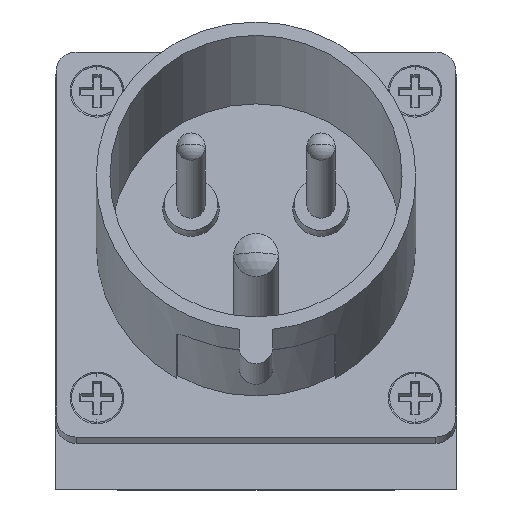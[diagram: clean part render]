
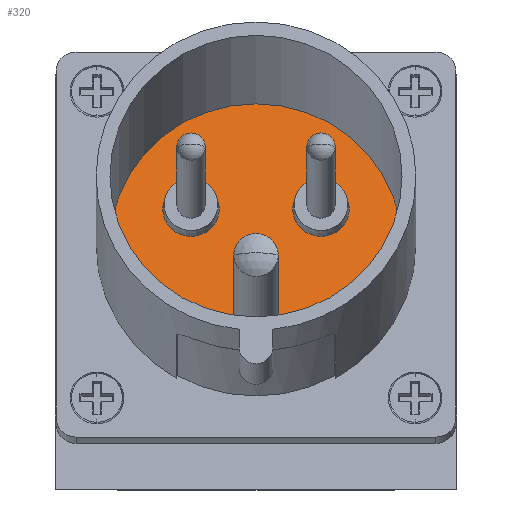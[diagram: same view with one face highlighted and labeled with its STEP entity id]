
A CAD part, top view. The second image highlights one B-rep face of the part: STEP entity #320.
In plain terms, the highlighted planar face has unit normal (0, 0.266, 0.964) as drawn and (0, 0, 1) by its records, which use the part's own axes.
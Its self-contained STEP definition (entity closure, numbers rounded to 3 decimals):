
#16 = EDGE_CURVE ( 'NONE', #2006, #2005, #5152, .T. ) ;
#320 = ADVANCED_FACE ( 'NONE', ( #1564, #1612, #1616, #1558 ), #16106, .F. ) ;
#612 = AXIS2_PLACEMENT_3D ( 'NONE', #6788, #6807, #6808 ) ;
#1442 = EDGE_LOOP ( 'NONE', ( #2650, #2651 ) ) ;
#1449 = EDGE_LOOP ( 'NONE', ( #2649, #2657 ) ) ;
#1450 = EDGE_LOOP ( 'NONE', ( #2654, #2656 ) ) ;
#1451 = EDGE_LOOP ( 'NONE', ( #2653, #2652 ) ) ;
#1558 = FACE_BOUND ( 'NONE', #1449, .T. ) ;
#1562 = AXIS2_PLACEMENT_3D ( 'NONE', #16107, #16108, #16109 ) ;
#1564 = FACE_BOUND ( 'NONE', #1442, .T. ) ;
#1612 = FACE_OUTER_BOUND ( 'NONE', #1451, .T. ) ;
#1616 = FACE_BOUND ( 'NONE', #1450, .T. ) ;
#1982 = VERTEX_POINT ( 'NONE', #8420 ) ;
#1983 = VERTEX_POINT ( 'NONE', #8421 ) ;
#1986 = VERTEX_POINT ( 'NONE', #8424 ) ;
#1987 = VERTEX_POINT ( 'NONE', #8425 ) ;
#2001 = VERTEX_POINT ( 'NONE', #8439 ) ;
#2002 = VERTEX_POINT ( 'NONE', #8440 ) ;
#2005 = VERTEX_POINT ( 'NONE', #8443 ) ;
#2006 = VERTEX_POINT ( 'NONE', #8444 ) ;
#2649 = ORIENTED_EDGE ( 'NONE', *, *, #17697, .F. ) ;
#2650 = ORIENTED_EDGE ( 'NONE', *, *, #17204, .T. ) ;
#2651 = ORIENTED_EDGE ( 'NONE', *, *, #17657, .T. ) ;
#2652 = ORIENTED_EDGE ( 'NONE', *, *, #17713, .T. ) ;
#2653 = ORIENTED_EDGE ( 'NONE', *, *, #16, .T. ) ;
#2654 = ORIENTED_EDGE ( 'NONE', *, *, #17701, .F. ) ;
#2656 = ORIENTED_EDGE ( 'NONE', *, *, #17233, .F. ) ;
#2657 = ORIENTED_EDGE ( 'NONE', *, *, #17202, .F. ) ;
#5152 = CIRCLE ( 'NONE', #612, 25.85 ) ;
#5459 = CIRCLE ( 'NONE', #14406, 5. ) ;
#5460 = CIRCLE ( 'NONE', #14410, 5. ) ;
#5475 = CIRCLE ( 'NONE', #14440, 3.95 ) ;
#5531 = CIRCLE ( 'NONE', #14572, 5. ) ;
#5543 = CIRCLE ( 'NONE', #14611, 5. ) ;
#5544 = CIRCLE ( 'NONE', #14616, 3.95 ) ;
#5549 = CIRCLE ( 'NONE', #14630, 25.85 ) ;
#6788 = CARTESIAN_POINT ( 'NONE',  ( 0., 0., 4.2 ) ) ;
#6807 = DIRECTION ( 'NONE',  ( 0., 0., 1. ) ) ;
#6808 = DIRECTION ( 'NONE',  ( 1., 0., 0. ) ) ;
#8420 = CARTESIAN_POINT ( 'NONE',  ( 16.5, 6.519, 4.2 ) ) ;
#8421 = CARTESIAN_POINT ( 'NONE',  ( 6.5, 6.519, 4.2 ) ) ;
#8424 = CARTESIAN_POINT ( 'NONE',  ( -6.5, 6.519, 4.2 ) ) ;
#8425 = CARTESIAN_POINT ( 'NONE',  ( -16.5, 6.519, 4.2 ) ) ;
#8439 = CARTESIAN_POINT ( 'NONE',  ( 3.95, -13.4, 4.2 ) ) ;
#8440 = CARTESIAN_POINT ( 'NONE',  ( -3.95, -13.4, 4.2 ) ) ;
#8443 = CARTESIAN_POINT ( 'NONE',  ( 25.85, 0., 4.2 ) ) ;
#8444 = CARTESIAN_POINT ( 'NONE',  ( -25.85, 0., 4.2 ) ) ;
#14080 = CARTESIAN_POINT ( 'NONE',  ( -11.5, 6.519, 4.2 ) ) ;
#14081 = DIRECTION ( 'NONE',  ( 0., 0., 1. ) ) ;
#14082 = DIRECTION ( 'NONE',  ( -1., 0., 0. ) ) ;
#14083 = CARTESIAN_POINT ( 'NONE',  ( 11.5, 6.519, 4.2 ) ) ;
#14087 = DIRECTION ( 'NONE',  ( 0., 0., -1. ) ) ;
#14088 = DIRECTION ( 'NONE',  ( -1., 0., 0. ) ) ;
#14170 = CARTESIAN_POINT ( 'NONE',  ( 0., -13.4, 4.2 ) ) ;
#14174 = DIRECTION ( 'NONE',  ( 0., 0., 1. ) ) ;
#14175 = DIRECTION ( 'NONE',  ( -1., 0., 0. ) ) ;
#14406 = AXIS2_PLACEMENT_3D ( 'NONE', #14080, #14081, #14082 ) ;
#14410 = AXIS2_PLACEMENT_3D ( 'NONE', #14083, #14087, #14088 ) ;
#14440 = AXIS2_PLACEMENT_3D ( 'NONE', #14170, #14174, #14175 ) ;
#14572 = AXIS2_PLACEMENT_3D ( 'NONE', #15531, #15532, #15533 ) ;
#14611 = AXIS2_PLACEMENT_3D ( 'NONE', #15665, #15666, #15667 ) ;
#14616 = AXIS2_PLACEMENT_3D ( 'NONE', #15668, #15678, #15679 ) ;
#14630 = AXIS2_PLACEMENT_3D ( 'NONE', #15708, #15715, #15716 ) ;
#15531 = CARTESIAN_POINT ( 'NONE',  ( 11.5, 6.519, 4.2 ) ) ;
#15532 = DIRECTION ( 'NONE',  ( 0., 0., -1. ) ) ;
#15533 = DIRECTION ( 'NONE',  ( -1., 0., 0. ) ) ;
#15665 = CARTESIAN_POINT ( 'NONE',  ( -11.5, 6.519, 4.2 ) ) ;
#15666 = DIRECTION ( 'NONE',  ( 0., 0., 1. ) ) ;
#15667 = DIRECTION ( 'NONE',  ( -1., 0., 0. ) ) ;
#15668 = CARTESIAN_POINT ( 'NONE',  ( 0., -13.4, 4.2 ) ) ;
#15678 = DIRECTION ( 'NONE',  ( 0., 0., 1. ) ) ;
#15679 = DIRECTION ( 'NONE',  ( -1., 0., 0. ) ) ;
#15708 = CARTESIAN_POINT ( 'NONE',  ( 0., 0., 4.2 ) ) ;
#15715 = DIRECTION ( 'NONE',  ( 0., 0., 1. ) ) ;
#15716 = DIRECTION ( 'NONE',  ( 1., 0., 0. ) ) ;
#16106 = PLANE ( 'NONE',  #1562 ) ;
#16107 = CARTESIAN_POINT ( 'NONE',  ( 0., 0., 4.2 ) ) ;
#16108 = DIRECTION ( 'NONE',  ( 0., 0., -1. ) ) ;
#16109 = DIRECTION ( 'NONE',  ( -1., 0., 0. ) ) ;
#17202 = EDGE_CURVE ( 'NONE', #1986, #1987, #5459, .T. ) ;
#17204 = EDGE_CURVE ( 'NONE', #1983, #1982, #5460, .T. ) ;
#17233 = EDGE_CURVE ( 'NONE', #2001, #2002, #5475, .T. ) ;
#17657 = EDGE_CURVE ( 'NONE', #1982, #1983, #5531, .T. ) ;
#17697 = EDGE_CURVE ( 'NONE', #1987, #1986, #5543, .T. ) ;
#17701 = EDGE_CURVE ( 'NONE', #2002, #2001, #5544, .T. ) ;
#17713 = EDGE_CURVE ( 'NONE', #2005, #2006, #5549, .T. ) ;
